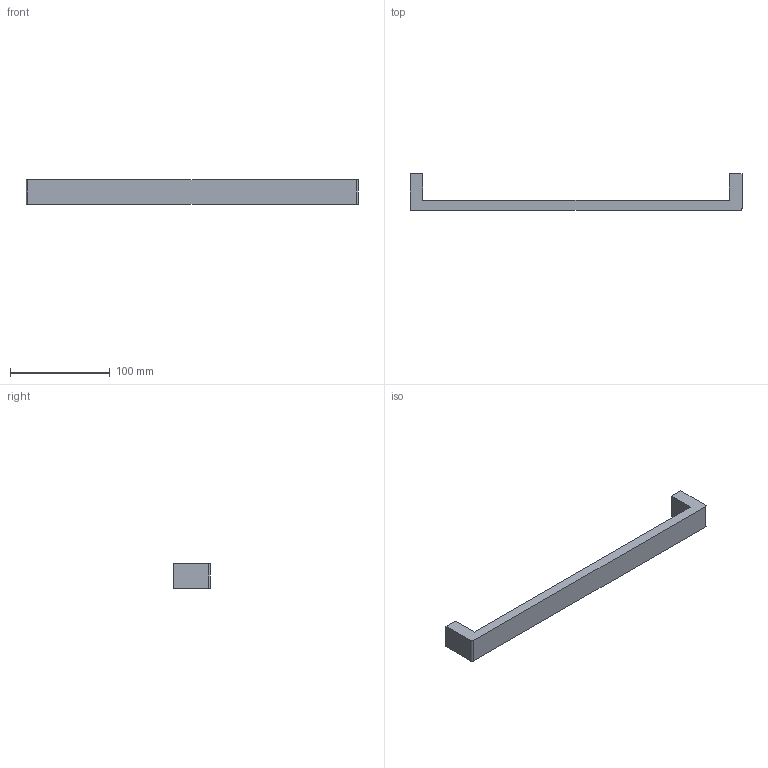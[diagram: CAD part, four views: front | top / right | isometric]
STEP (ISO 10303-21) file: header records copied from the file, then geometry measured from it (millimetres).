
FILE_DESCRIPTION( ( 'STEP AP214' ), '1' );
FILE_NAME( 'C:/Users/kulkarni/Desktop/Apurva/2015/Prodecor_2016/Cadfiles/same as files/Ponte/115387.stp', ' ', ( ' ' ), ( ' ' ), 'PSStep 15.0.47', 'PARTsolutions', ' ' );
FILE_SCHEMA( ( 'AUTOMOTIVE_DESIGN { 1 0 10303 214 1 1 1 1 }' ) );
Length unit declared in the file: millimetre
Products named in the file (1): _115387
Bounding box: 333 x 37 x 25 mm (x, y, z)
Volume: 100556 mm3; surface area: 28068.7 mm2
Topology: 1 solids, 1 shells, 16 faces, 36 edges, 24 vertices
Faces by surface type: plane 12, cylinder 4
Full cylindrical faces by diameter (mm): 4 x2
Entity records: 582 total; most frequent: DIRECTION 76, CARTESIAN_POINT 75, ORIENTED_EDGE 68, EDGE_CURVE 34, LINE 26, VECTOR 26, AXIS2_PLACEMENT_3D 25, VERTEX_POINT 24
